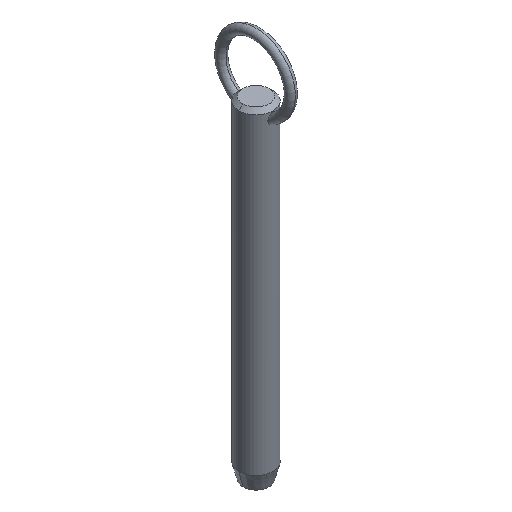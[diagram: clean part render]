
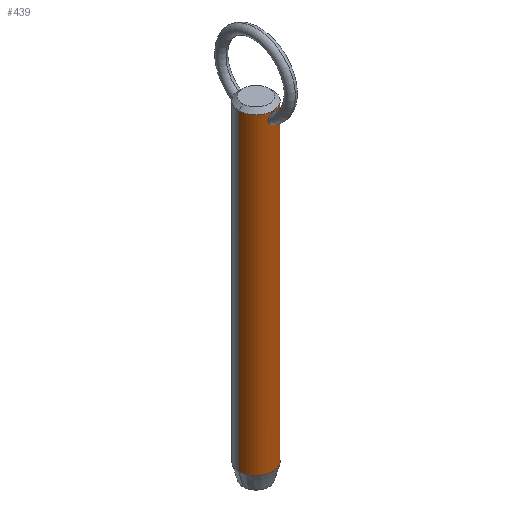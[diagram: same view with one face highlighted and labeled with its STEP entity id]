
A CAD part, isometric view. The second image highlights one B-rep face of the part: STEP entity #439.
In plain terms, the highlighted cylindrical face has radius 5.55 mm (diameter 11.1 mm), a partial arc.
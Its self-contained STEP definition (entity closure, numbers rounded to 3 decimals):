
#6 = ORIENTED_EDGE ( 'NONE', *, *, #89, .T. ) ;
#7 = CARTESIAN_POINT ( 'NONE',  ( -0.212, -5.547, 87.688 ) ) ;
#9 = CARTESIAN_POINT ( 'NONE',  ( -1.195, -5.421, 90.371 ) ) ;
#13 = ORIENTED_EDGE ( 'NONE', *, *, #259, .T. ) ;
#25 = CARTESIAN_POINT ( 'NONE',  ( 0.515, -5.527, 91.022 ) ) ;
#31 = CARTESIAN_POINT ( 'NONE',  ( 0.941, -5.471, 90.707 ) ) ;
#36 = CARTESIAN_POINT ( 'NONE',  ( 1.5, -5.343, 89.154 ) ) ;
#38 = CARTESIAN_POINT ( 'NONE',  ( 1.44, -5.36, 89.786 ) ) ;
#44 = CARTESIAN_POINT ( 'NONE',  ( -0.939, -5.472, 90.71 ) ) ;
#45 = CARTESIAN_POINT ( 'NONE',  ( -1.5, -5.343, 89.153 ) ) ;
#51 = CARTESIAN_POINT ( 'NONE',  ( -1.503, -5.343, 89.259 ) ) ;
#57 = CARTESIAN_POINT ( 'NONE',  ( -5.55, 0., 86.4 ) ) ;
#78 = CARTESIAN_POINT ( 'NONE',  ( 0.977, -5.464, 88.032 ) ) ;
#80 = CARTESIAN_POINT ( 'NONE',  ( 1.455, -5.356, 88.838 ) ) ;
#81 = CARTESIAN_POINT ( 'NONE',  ( 1.486, -5.347, 89.574 ) ) ;
#85 = CARTESIAN_POINT ( 'NONE',  ( -0.416, -5.535, 91.067 ) ) ;
#89 = EDGE_CURVE ( 'NONE', #159, #361, #398, .T. ) ;
#90 = CARTESIAN_POINT ( 'NONE',  ( -1.455, -5.356, 88.836 ) ) ;
#99 = CARTESIAN_POINT ( 'NONE',  ( 5.55, 0., 86.4 ) ) ;
#121 = CARTESIAN_POINT ( 'NONE',  ( 1.477, -5.35, 88.944 ) ) ;
#123 = CARTESIAN_POINT ( 'NONE',  ( -1.485, -5.348, 89.579 ) ) ;
#125 = CARTESIAN_POINT ( 'NONE',  ( 0., -5.55, 91.145 ) ) ;
#128 = CARTESIAN_POINT ( 'NONE',  ( -0.106, -5.55, 91.145 ) ) ;
#132 = EDGE_CURVE ( 'NONE', #159, #286, #140, .T. ) ;
#140 = LINE ( 'NONE', #99, #499 ) ;
#142 = ORIENTED_EDGE ( 'NONE', *, *, #132, .F. ) ;
#153 = VERTEX_POINT ( 'NONE', #467 ) ;
#156 = CARTESIAN_POINT ( 'NONE',  ( 0.421, -5.535, 87.732 ) ) ;
#157 = CARTESIAN_POINT ( 'NONE',  ( 1.363, -5.38, 88.534 ) ) ;
#159 = VERTEX_POINT ( 'NONE', #470 ) ;
#164 = CARTESIAN_POINT ( 'NONE',  ( -0.716, -5.504, 87.852 ) ) ;
#172 = CIRCLE ( 'NONE', #331, 5.55 ) ;
#184 = DIRECTION ( 'NONE',  ( -1., 0., 0. ) ) ;
#187 = AXIS2_PLACEMENT_3D ( 'NONE', #362, #330, #281 ) ;
#192 = VERTEX_POINT ( 'NONE', #309 ) ;
#198 = DIRECTION ( 'NONE',  ( 0., 0., 1. ) ) ;
#200 = CARTESIAN_POINT ( 'NONE',  ( 0., -5.55, 87.677 ) ) ;
#202 = DIRECTION ( 'NONE',  ( 0., 0., -1. ) ) ;
#204 = VECTOR ( 'NONE', #477, 1000. ) ;
#205 = CARTESIAN_POINT ( 'NONE',  ( 0.807, -5.492, 87.906 ) ) ;
#206 = CARTESIAN_POINT ( 'NONE',  ( 1.26, -5.407, 88.343 ) ) ;
#207 = B_SPLINE_CURVE_WITH_KNOTS ( 'NONE', 3,
 ( #515, #234, #353, #389, #25, #274, #31, #284, #370, #38, #81, #325, #36, #121, #80, #157, #206, #447, #78, #205, #522, #326, #156, #329, #451, #399 ),
 .UNSPECIFIED., .F., .F.,
 ( 4, 2, 2, 2, 2, 2, 2, 2, 2, 2, 2, 2, 4 ),
 ( 0.005, 0.005, 0.005, 0.006, 0.006, 0.007, 0.007, 0.008, 0.008, 0.009, 0.009, 0.009, 0.01 ),
 .UNSPECIFIED. ) ;
#211 = B_SPLINE_CURVE_WITH_KNOTS ( 'NONE', 3,
 ( #200, #489, #7, #256, #500, #164, #497, #290, #462, #456, #337, #90, #410, #45, #51, #123, #335, #375, #9, #44, #289, #455, #85, #249, #128, #296 ),
 .UNSPECIFIED., .F., .F.,
 ( 4, 2, 2, 2, 2, 2, 2, 2, 2, 2, 2, 2, 4 ),
 ( 0.01, 0.01, 0.01, 0.011, 0.011, 0.012, 0.012, 0.012, 0.013, 0.013, 0.014, 0.014, 0.015 ),
 .UNSPECIFIED. ) ;
#229 = CARTESIAN_POINT ( 'NONE',  ( -5.55, 0., 91.45 ) ) ;
#234 = CARTESIAN_POINT ( 'NONE',  ( 0.106, -5.55, 91.145 ) ) ;
#249 = CARTESIAN_POINT ( 'NONE',  ( -0.211, -5.547, 91.129 ) ) ;
#256 = CARTESIAN_POINT ( 'NONE',  ( -0.42, -5.535, 87.732 ) ) ;
#259 = EDGE_CURVE ( 'NONE', #361, #153, #311, .T. ) ;
#262 = DIRECTION ( 'NONE',  ( 0., 0., -1. ) ) ;
#266 = ORIENTED_EDGE ( 'NONE', *, *, #485, .T. ) ;
#274 = CARTESIAN_POINT ( 'NONE',  ( 0.786, -5.497, 90.857 ) ) ;
#281 = DIRECTION ( 'NONE',  ( -1., 0., 0. ) ) ;
#284 = CARTESIAN_POINT ( 'NONE',  ( 1.194, -5.422, 90.371 ) ) ;
#286 = VERTEX_POINT ( 'NONE', #359 ) ;
#289 = CARTESIAN_POINT ( 'NONE',  ( -0.785, -5.497, 90.858 ) ) ;
#290 = CARTESIAN_POINT ( 'NONE',  ( -0.976, -5.464, 88.031 ) ) ;
#296 = CARTESIAN_POINT ( 'NONE',  ( 0., -5.55, 91.145 ) ) ;
#298 = FACE_OUTER_BOUND ( 'NONE', #504, .T. ) ;
#309 = CARTESIAN_POINT ( 'NONE',  ( 0., -5.55, 87.677 ) ) ;
#311 = LINE ( 'NONE', #57, #204 ) ;
#322 = EDGE_CURVE ( 'NONE', #153, #286, #172, .T. ) ;
#325 = CARTESIAN_POINT ( 'NONE',  ( 1.503, -5.343, 89.259 ) ) ;
#326 = CARTESIAN_POINT ( 'NONE',  ( 0.523, -5.526, 87.766 ) ) ;
#329 = CARTESIAN_POINT ( 'NONE',  ( 0.213, -5.547, 87.688 ) ) ;
#330 = DIRECTION ( 'NONE',  ( 0., 0., -1. ) ) ;
#331 = AXIS2_PLACEMENT_3D ( 'NONE', #481, #198, #184 ) ;
#332 = EDGE_LOOP ( 'NONE', ( #478, #266 ) ) ;
#335 = CARTESIAN_POINT ( 'NONE',  ( -1.44, -5.36, 89.787 ) ) ;
#337 = CARTESIAN_POINT ( 'NONE',  ( -1.362, -5.381, 88.532 ) ) ;
#347 = ORIENTED_EDGE ( 'NONE', *, *, #322, .T. ) ;
#353 = CARTESIAN_POINT ( 'NONE',  ( 0.214, -5.547, 91.128 ) ) ;
#359 = CARTESIAN_POINT ( 'NONE',  ( 5.55, 0., -9.2 ) ) ;
#361 = VERTEX_POINT ( 'NONE', #229 ) ;
#362 = CARTESIAN_POINT ( 'NONE',  ( 0., 0., 86.4 ) ) ;
#369 = EDGE_CURVE ( 'NONE', #488, #192, #207, .T. ) ;
#370 = CARTESIAN_POINT ( 'NONE',  ( 1.295, -5.397, 90.182 ) ) ;
#375 = CARTESIAN_POINT ( 'NONE',  ( -1.294, -5.398, 90.186 ) ) ;
#379 = AXIS2_PLACEMENT_3D ( 'NONE', #401, #202, #491 ) ;
#389 = CARTESIAN_POINT ( 'NONE',  ( 0.417, -5.535, 91.067 ) ) ;
#398 = CIRCLE ( 'NONE', #379, 5.55 ) ;
#399 = CARTESIAN_POINT ( 'NONE',  ( 0., -5.55, 87.677 ) ) ;
#401 = CARTESIAN_POINT ( 'NONE',  ( 0., 0., 91.45 ) ) ;
#410 = CARTESIAN_POINT ( 'NONE',  ( -1.477, -5.35, 88.942 ) ) ;
#439 = ADVANCED_FACE ( 'NONE', ( #298, #493 ), #463, .T. ) ;
#447 = CARTESIAN_POINT ( 'NONE',  ( 1.055, -5.449, 88.105 ) ) ;
#451 = CARTESIAN_POINT ( 'NONE',  ( 0.107, -5.55, 87.677 ) ) ;
#455 = CARTESIAN_POINT ( 'NONE',  ( -0.513, -5.527, 91.023 ) ) ;
#456 = CARTESIAN_POINT ( 'NONE',  ( -1.26, -5.407, 88.342 ) ) ;
#462 = CARTESIAN_POINT ( 'NONE',  ( -1.054, -5.449, 88.104 ) ) ;
#463 = CYLINDRICAL_SURFACE ( 'NONE', #187, 5.55 ) ;
#467 = CARTESIAN_POINT ( 'NONE',  ( -5.55, 0., -9.2 ) ) ;
#470 = CARTESIAN_POINT ( 'NONE',  ( 5.55, 0., 91.45 ) ) ;
#477 = DIRECTION ( 'NONE',  ( 0., 0., -1. ) ) ;
#478 = ORIENTED_EDGE ( 'NONE', *, *, #369, .T. ) ;
#481 = CARTESIAN_POINT ( 'NONE',  ( 0., 0., -9.2 ) ) ;
#485 = EDGE_CURVE ( 'NONE', #192, #488, #211, .T. ) ;
#488 = VERTEX_POINT ( 'NONE', #125 ) ;
#489 = CARTESIAN_POINT ( 'NONE',  ( -0.107, -5.55, 87.677 ) ) ;
#491 = DIRECTION ( 'NONE',  ( 1., 0., 0. ) ) ;
#493 = FACE_BOUND ( 'NONE', #332, .T. ) ;
#497 = CARTESIAN_POINT ( 'NONE',  ( -0.807, -5.492, 87.905 ) ) ;
#499 = VECTOR ( 'NONE', #262, 1000. ) ;
#500 = CARTESIAN_POINT ( 'NONE',  ( -0.523, -5.526, 87.766 ) ) ;
#504 = EDGE_LOOP ( 'NONE', ( #142, #6, #13, #347 ) ) ;
#515 = CARTESIAN_POINT ( 'NONE',  ( 0., -5.55, 91.145 ) ) ;
#522 = CARTESIAN_POINT ( 'NONE',  ( 0.716, -5.504, 87.852 ) ) ;
